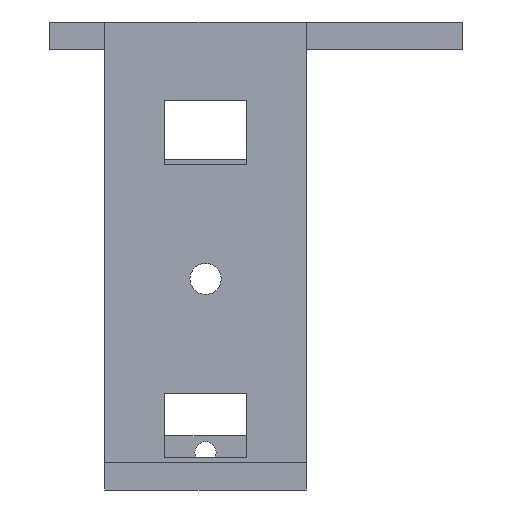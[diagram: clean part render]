
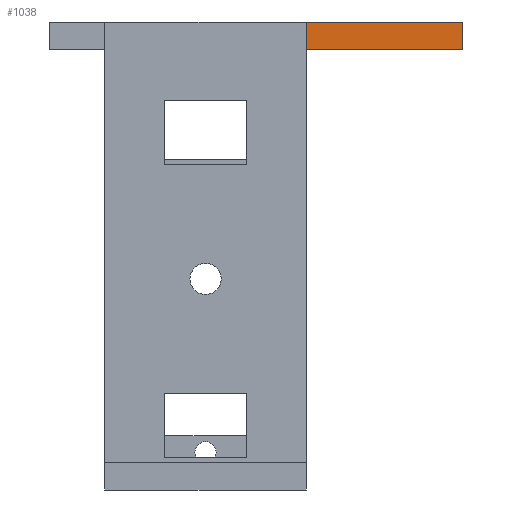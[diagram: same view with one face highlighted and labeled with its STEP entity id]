
A CAD part, front view. The second image highlights one B-rep face of the part: STEP entity #1038.
In plain terms, the highlighted planar face has unit normal (0, -1, 0).
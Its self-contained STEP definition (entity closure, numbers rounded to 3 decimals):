
#72 = PLANE('',#73);
#73 = AXIS2_PLACEMENT_3D('',#74,#75,#76);
#74 = CARTESIAN_POINT('',(-55.,-5.,55.));
#75 = DIRECTION('',(0.,0.,1.));
#76 = DIRECTION('',(1.,0.,0.));
#126 = PLANE('',#127);
#127 = AXIS2_PLACEMENT_3D('',#128,#129,#130);
#128 = CARTESIAN_POINT('',(-55.,-5.,58.));
#129 = DIRECTION('',(0.,0.,1.));
#130 = DIRECTION('',(1.,0.,0.));
#270 = VERTEX_POINT('',#271);
#271 = CARTESIAN_POINT('',(-27.,-5.,58.));
#285 = PLANE('',#286);
#286 = AXIS2_PLACEMENT_3D('',#287,#288,#289);
#287 = CARTESIAN_POINT('',(-27.,-25.,55.));
#288 = DIRECTION('',(1.,0.,0.));
#289 = DIRECTION('',(0.,0.,1.));
#297 = EDGE_CURVE('',#270,#298,#300,.T.);
#298 = VERTEX_POINT('',#299);
#299 = CARTESIAN_POINT('',(-10.,-5.,58.));
#300 = SURFACE_CURVE('',#301,(#305,#312),.PCURVE_S1.);
#301 = LINE('',#302,#303);
#302 = CARTESIAN_POINT('',(-55.,-5.,58.));
#303 = VECTOR('',#304,1.);
#304 = DIRECTION('',(1.,0.,0.));
#305 = PCURVE('',#126,#306);
#306 = DEFINITIONAL_REPRESENTATION('',(#307),#311);
#307 = LINE('',#308,#309);
#308 = CARTESIAN_POINT('',(0.,0.));
#309 = VECTOR('',#310,1.);
#310 = DIRECTION('',(1.,0.));
#311 = ( GEOMETRIC_REPRESENTATION_CONTEXT(2) 
PARAMETRIC_REPRESENTATION_CONTEXT() REPRESENTATION_CONTEXT('2D SPACE',''
  ) );
#312 = PCURVE('',#313,#318);
#313 = PLANE('',#314);
#314 = AXIS2_PLACEMENT_3D('',#315,#316,#317);
#315 = CARTESIAN_POINT('',(-55.,-5.,55.));
#316 = DIRECTION('',(0.,1.,0.));
#317 = DIRECTION('',(0.,0.,1.));
#318 = DEFINITIONAL_REPRESENTATION('',(#319),#323);
#319 = LINE('',#320,#321);
#320 = CARTESIAN_POINT('',(3.,0.));
#321 = VECTOR('',#322,1.);
#322 = DIRECTION('',(0.,1.));
#323 = ( GEOMETRIC_REPRESENTATION_CONTEXT(2) 
PARAMETRIC_REPRESENTATION_CONTEXT() REPRESENTATION_CONTEXT('2D SPACE',''
  ) );
#341 = PLANE('',#342);
#342 = AXIS2_PLACEMENT_3D('',#343,#344,#345);
#343 = CARTESIAN_POINT('',(-10.,-5.,55.));
#344 = DIRECTION('',(1.,0.,0.));
#345 = DIRECTION('',(0.,0.,1.));
#572 = VERTEX_POINT('',#573);
#573 = CARTESIAN_POINT('',(-27.,-5.,55.));
#594 = EDGE_CURVE('',#572,#595,#597,.T.);
#595 = VERTEX_POINT('',#596);
#596 = CARTESIAN_POINT('',(-10.,-5.,55.));
#597 = SURFACE_CURVE('',#598,(#602,#609),.PCURVE_S1.);
#598 = LINE('',#599,#600);
#599 = CARTESIAN_POINT('',(-55.,-5.,55.));
#600 = VECTOR('',#601,1.);
#601 = DIRECTION('',(1.,0.,0.));
#602 = PCURVE('',#72,#603);
#603 = DEFINITIONAL_REPRESENTATION('',(#604),#608);
#604 = LINE('',#605,#606);
#605 = CARTESIAN_POINT('',(0.,0.));
#606 = VECTOR('',#607,1.);
#607 = DIRECTION('',(1.,0.));
#608 = ( GEOMETRIC_REPRESENTATION_CONTEXT(2) 
PARAMETRIC_REPRESENTATION_CONTEXT() REPRESENTATION_CONTEXT('2D SPACE',''
  ) );
#609 = PCURVE('',#313,#610);
#610 = DEFINITIONAL_REPRESENTATION('',(#611),#615);
#611 = LINE('',#612,#613);
#612 = CARTESIAN_POINT('',(0.,0.));
#613 = VECTOR('',#614,1.);
#614 = DIRECTION('',(0.,1.));
#615 = ( GEOMETRIC_REPRESENTATION_CONTEXT(2) 
PARAMETRIC_REPRESENTATION_CONTEXT() REPRESENTATION_CONTEXT('2D SPACE',''
  ) );
#1015 = EDGE_CURVE('',#595,#298,#1016,.T.);
#1016 = SURFACE_CURVE('',#1017,(#1021,#1028),.PCURVE_S1.);
#1017 = LINE('',#1018,#1019);
#1018 = CARTESIAN_POINT('',(-10.,-5.,55.));
#1019 = VECTOR('',#1020,1.);
#1020 = DIRECTION('',(0.,0.,1.));
#1021 = PCURVE('',#341,#1022);
#1022 = DEFINITIONAL_REPRESENTATION('',(#1023),#1027);
#1023 = LINE('',#1024,#1025);
#1024 = CARTESIAN_POINT('',(0.,0.));
#1025 = VECTOR('',#1026,1.);
#1026 = DIRECTION('',(1.,0.));
#1027 = ( GEOMETRIC_REPRESENTATION_CONTEXT(2) 
PARAMETRIC_REPRESENTATION_CONTEXT() REPRESENTATION_CONTEXT('2D SPACE',''
  ) );
#1028 = PCURVE('',#313,#1029);
#1029 = DEFINITIONAL_REPRESENTATION('',(#1030),#1034);
#1030 = LINE('',#1031,#1032);
#1031 = CARTESIAN_POINT('',(0.,45.));
#1032 = VECTOR('',#1033,1.);
#1033 = DIRECTION('',(1.,0.));
#1034 = ( GEOMETRIC_REPRESENTATION_CONTEXT(2) 
PARAMETRIC_REPRESENTATION_CONTEXT() REPRESENTATION_CONTEXT('2D SPACE',''
  ) );
#1038 = ADVANCED_FACE('',(#1039),#313,.F.);
#1039 = FACE_BOUND('',#1040,.F.);
#1040 = EDGE_LOOP('',(#1041,#1042,#1062,#1063));
#1041 = ORIENTED_EDGE('',*,*,#594,.F.);
#1042 = ORIENTED_EDGE('',*,*,#1043,.F.);
#1043 = EDGE_CURVE('',#270,#572,#1044,.T.);
#1044 = SURFACE_CURVE('',#1045,(#1049,#1055),.PCURVE_S1.);
#1045 = LINE('',#1046,#1047);
#1046 = CARTESIAN_POINT('',(-27.,-5.,55.));
#1047 = VECTOR('',#1048,1.);
#1048 = DIRECTION('',(0.,0.,-1.));
#1049 = PCURVE('',#313,#1050);
#1050 = DEFINITIONAL_REPRESENTATION('',(#1051),#1054);
#1051 = B_SPLINE_CURVE_WITH_KNOTS('',1,(#1052,#1053),.UNSPECIFIED.,.F.,
  .F.,(2,2),(-3.,0.),.PIECEWISE_BEZIER_KNOTS.);
#1052 = CARTESIAN_POINT('',(3.,28.));
#1053 = CARTESIAN_POINT('',(0.,28.));
#1054 = ( GEOMETRIC_REPRESENTATION_CONTEXT(2) 
PARAMETRIC_REPRESENTATION_CONTEXT() REPRESENTATION_CONTEXT('2D SPACE',''
  ) );
#1055 = PCURVE('',#285,#1056);
#1056 = DEFINITIONAL_REPRESENTATION('',(#1057),#1061);
#1057 = LINE('',#1058,#1059);
#1058 = CARTESIAN_POINT('',(0.,-20.));
#1059 = VECTOR('',#1060,1.);
#1060 = DIRECTION('',(-1.,0.));
#1061 = ( GEOMETRIC_REPRESENTATION_CONTEXT(2) 
PARAMETRIC_REPRESENTATION_CONTEXT() REPRESENTATION_CONTEXT('2D SPACE',''
  ) );
#1062 = ORIENTED_EDGE('',*,*,#297,.T.);
#1063 = ORIENTED_EDGE('',*,*,#1015,.F.);
